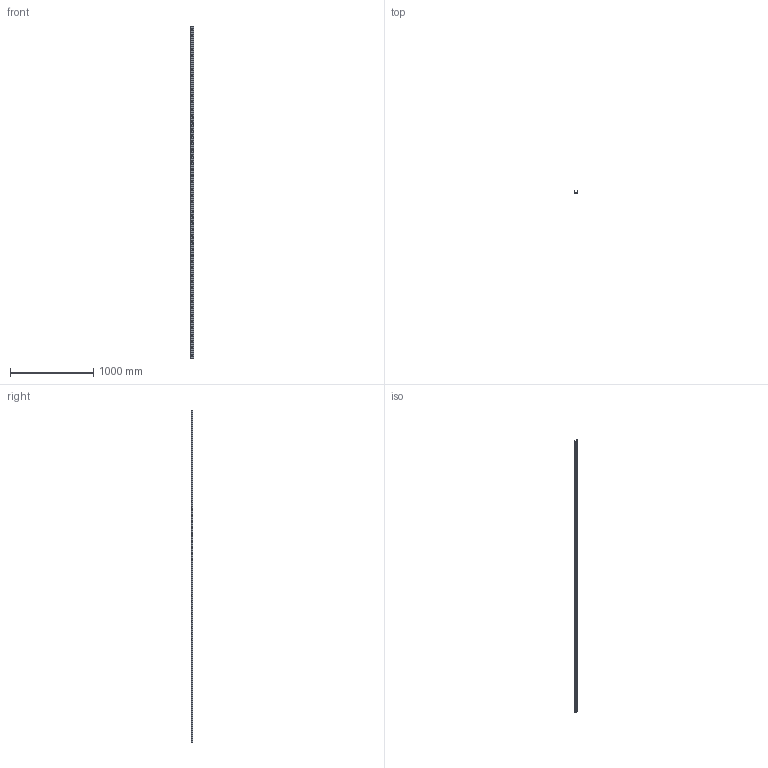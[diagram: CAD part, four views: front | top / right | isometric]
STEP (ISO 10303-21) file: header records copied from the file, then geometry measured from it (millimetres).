
FILE_DESCRIPTION(('STEP AP214'),'1');
FILE_NAME('rail_tex40-4000.stp','2019-03-08T08:34:30',('TraceParts'),('TraceParts S.A.'),'Spatial InterOp 3D',' ',' ');
FILE_SCHEMA(('automotive_design'));
Length unit declared in the file: millimetre
Products named in the file (1): rail_tex40-4000
Bounding box: 39.53 x 21 x 4000 mm (x, y, z)
Volume: 782062.8 mm3; surface area: 550687.3 mm2
Topology: 1 solids, 1 shells, 867 faces, 2244 edges, 1496 vertices
Faces by surface type: plane 612, bspline 143, cylinder 112
Entity records: 55233 total; most frequent: CARTESIAN_POINT 27579, ORIENTED_EDGE 4488, DIRECTION 3632, EDGE_CURVE 2244, LINE 1734, VECTOR 1734, VERTEX_POINT 1496, EDGE_LOOP 1084
